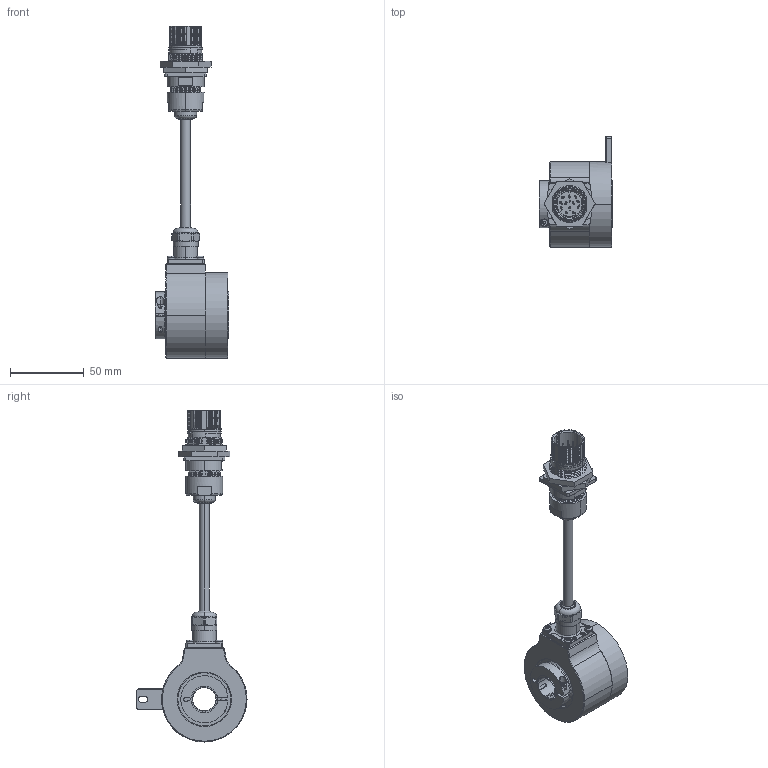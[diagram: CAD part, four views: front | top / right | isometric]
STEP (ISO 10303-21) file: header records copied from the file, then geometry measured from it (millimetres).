
FILE_DESCRIPTION (( 'STEP AP203' ), '1' );
FILE_NAME ('K58I.OXX.XXXXX.XC1754A.XXR14.XXXX.step', '2025-12-03T08:03:28', ( '' ), ( '' ), 'SwSTEP 2.0', 'SolidWorks 2021', '' );
FILE_SCHEMA (( 'CONFIG_CONTROL_DESIGN' ));
Length unit declared in the file: millimetre
Products named in the file (1): K58I.OXX.XXXXX.XC1754A.XXR14.XXXX
Bounding box: 50.1 x 74.75 x 225.35 mm (x, y, z)
Volume: 143061.5 mm3; surface area: 58448.9 mm2
Topology: 13 solids, 25 shells, 1758 faces, 4698 edges, 3020 vertices
Faces by surface type: cylinder 590, plane 542, cone 394, bspline 124, torus 66, sphere 42
Entity records: 62290 total; most frequent: CARTESIAN_POINT 19473, ORIENTED_EDGE 9324, DIRECTION 8645, EDGE_CURVE 4662, AXIS2_PLACEMENT_3D 3360, VERTEX_POINT 3020, LINE 1925, VECTOR 1925
